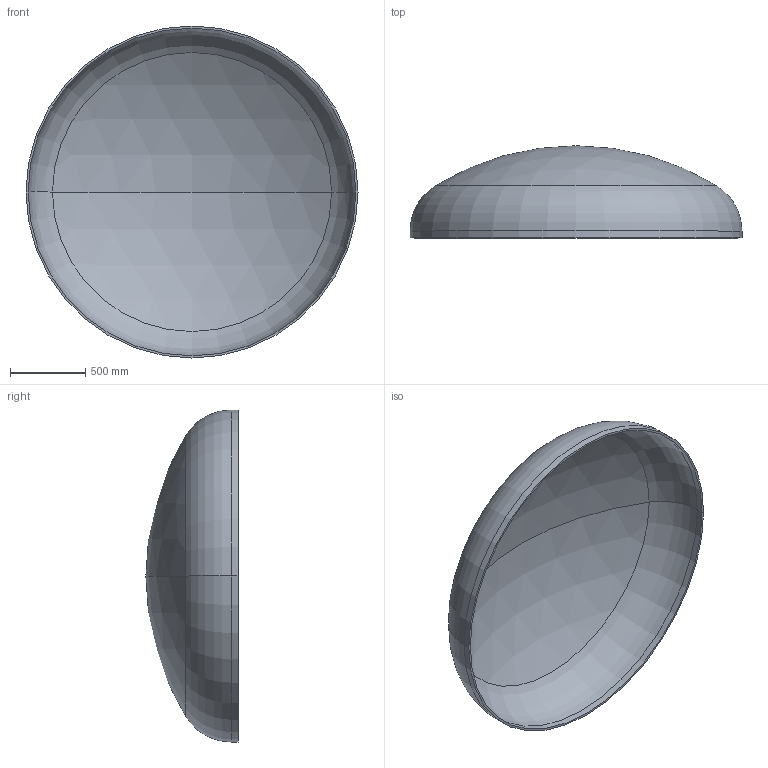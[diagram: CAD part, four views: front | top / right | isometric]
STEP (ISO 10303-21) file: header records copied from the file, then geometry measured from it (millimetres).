
FILE_DESCRIPTION (( 'STEP AP203' ), '1' );
FILE_NAME ('DIN 28013 Korbbogenform_-_Boden DIN 28013 - 2200 x 45 - I - s=14.step', '2016-07-01T14:20:55', ( '' ), ( '' ), 'SwSTEP 2.0', 'SolidWorks 2013', '' );
FILE_SCHEMA (( 'CONFIG_CONTROL_DESIGN' ));
Length unit declared in the file: millimetre
Products named in the file (1): DIN 28013 Korbbogenform_-_Boden DIN 28013 - 2200 x 45 - I - s=14
Bounding box: 2200 x 610.74 x 2200 mm (x, y, z)
Volume: 77467856.2 mm3; surface area: 11163388.1 mm2
Topology: 1 solids, 1 shells, 13 faces, 24 edges, 14 vertices
Faces by surface type: torus 4, cylinder 4, sphere 4, plane 1
Entity records: 407 total; most frequent: DIRECTION 72, CARTESIAN_POINT 52, ORIENTED_EDGE 48, AXIS2_PLACEMENT_3D 34, EDGE_CURVE 24, CIRCLE 20, VERTEX_POINT 14, EDGE_LOOP 14
